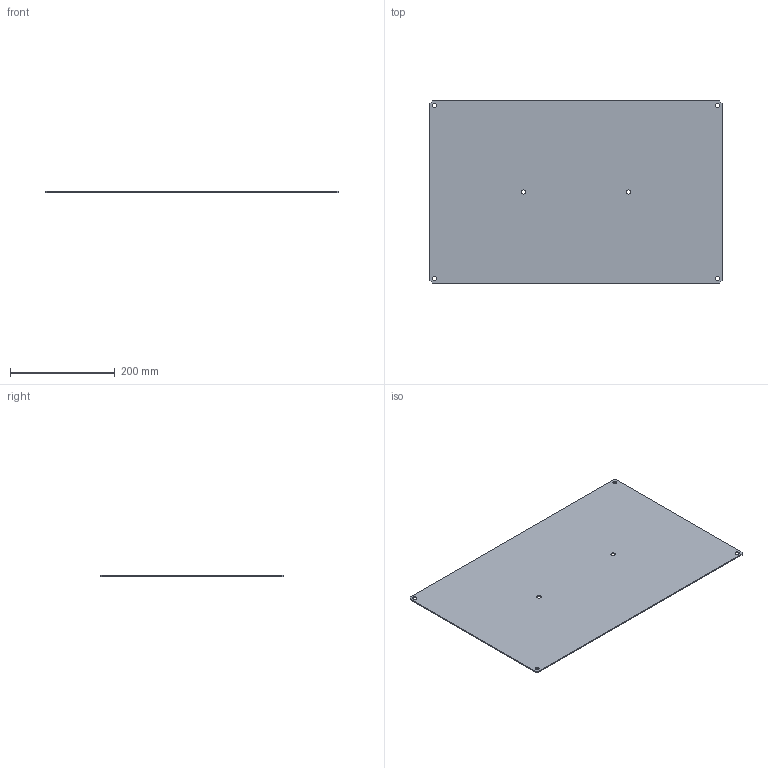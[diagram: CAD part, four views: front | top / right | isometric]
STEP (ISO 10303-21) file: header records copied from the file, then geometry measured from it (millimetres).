
FILE_DESCRIPTION (( 'STEP AP203' ), '1' );
FILE_NAME ('CN5064MP.STEP', '2021-07-01T11:55:09', ( 'vlan4e' ), ( '' ), 'SwSTEP 2.0', 'SolidWorks 2020', '' );
FILE_SCHEMA (( 'CONFIG_CONTROL_DESIGN' ));
Length unit declared in the file: millimetre
Products named in the file (1): CN5064MP
Bounding box: 558 x 348 x 2 mm (x, y, z)
Volume: 387664.8 mm3; surface area: 391567 mm2
Topology: 1 solids, 1 shells, 22 faces, 60 edges, 40 vertices
Faces by surface type: cylinder 12, plane 10
Entity records: 809 total; most frequent: DIRECTION 130, CARTESIAN_POINT 123, ORIENTED_EDGE 120, EDGE_CURVE 60, AXIS2_PLACEMENT_3D 47, VERTEX_POINT 40, LINE 36, VECTOR 36
